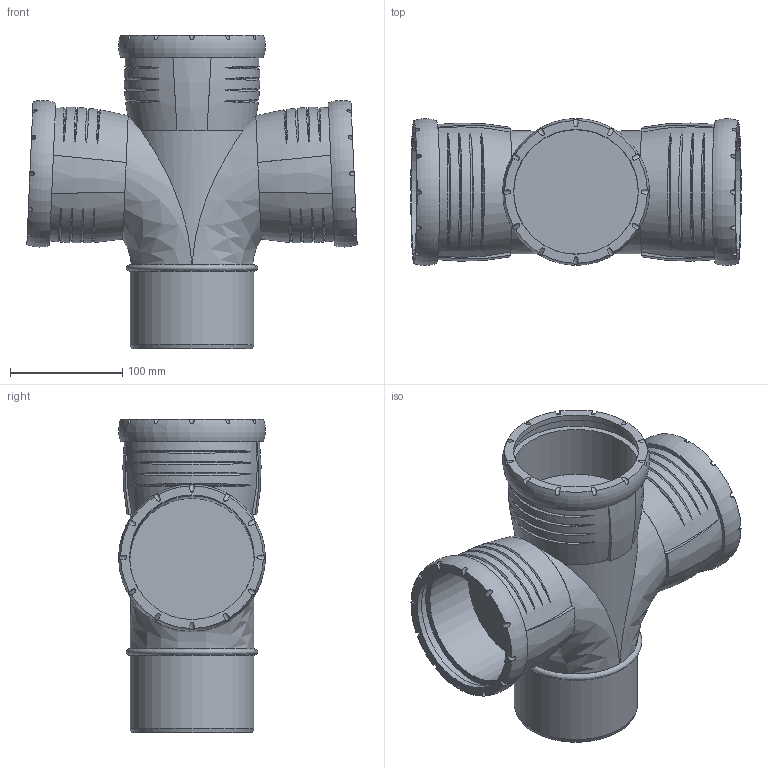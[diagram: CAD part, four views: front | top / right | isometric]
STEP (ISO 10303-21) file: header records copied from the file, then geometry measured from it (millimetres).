
FILE_DESCRIPTION(/* description */ (''),/* implementation_level */ '2;1');
FILE_NAME(/* name */ 'H:\Geberit-Teile\Export\Abzweig PP\stp\393566.stp',/* time_stamp */ '2017-02-13T13:23:37+01:00',/* author */ ('seihe2'),/* organization */ (''),/* preprocessor_version */ 'ST-DEVELOPER v15.2',/* originating_system */ 'Autodesk Inventor 2014',/* authorisation */ '');
FILE_SCHEMA (('AUTOMOTIVE_DESIGN { 1 0 10303 214 3 1 1 }'));
Length unit declared in the file: millimetre
Products named in the file (1): 393566
Bounding box: 294.75 x 130.89 x 279.9 mm (x, y, z)
Volume: 2792719.3 mm3; surface area: 392045.1 mm2
Topology: 6 solids, 6 shells, 153 faces, 358 edges, 254 vertices
Faces by surface type: bspline 69, cylinder 53, plane 27, torus 3, cone 1
Full cylindrical faces by diameter (mm): 90 x3, 101.2 x1, 110.2 x2, 111 x3, 111.3 x3, 121.5 x3
Entity records: 11515 total; most frequent: CARTESIAN_POINT 8391, ORIENTED_EDGE 662, DIRECTION 454, EDGE_CURVE 330, VERTEX_POINT 245, AXIS2_PLACEMENT_3D 227, EDGE_LOOP 213, B_SPLINE_CURVE_WITH_KNOTS 188
